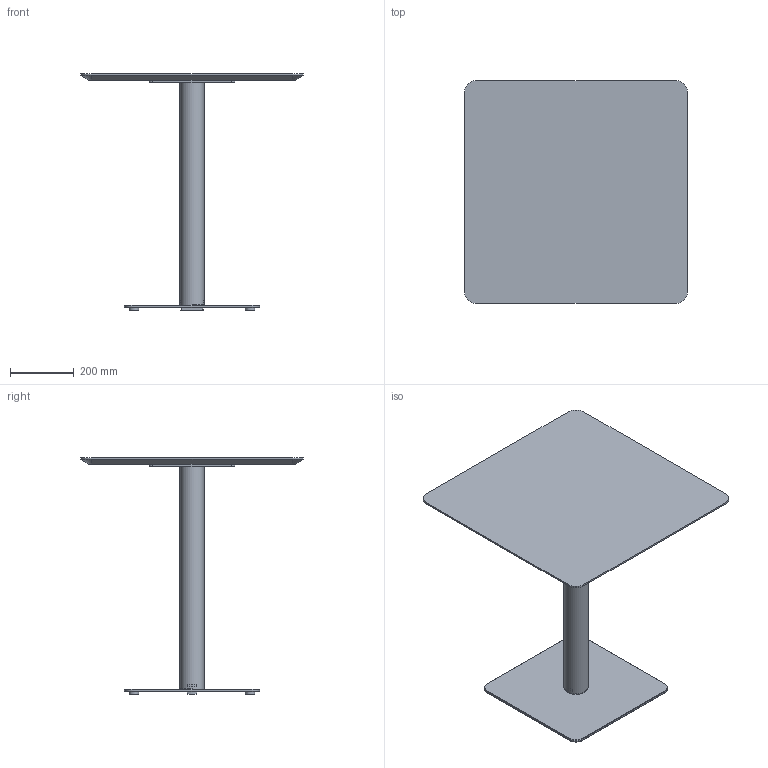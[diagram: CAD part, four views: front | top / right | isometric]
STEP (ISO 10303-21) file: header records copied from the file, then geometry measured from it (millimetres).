
FILE_DESCRIPTION( ('This file contains a STEP AP42 implementation' ,'as created by ZW3D STEP Interface translator.') ,'2;1' );
FILE_NAME( 'Henri - B_Carré - F3 - M5 - 700 x 700 x 750.stp' ,'24 912.171513', (''), ('ZWCAD Software Co.'), 'Version 1.0', 'ZW3D to STEP translator', '' );
FILE_SCHEMA(('AUTOMOTIVE_DESIGN { 1 0 10303 214 1 1 1 1 }'));
Length unit declared in the file: millimetre
Products named in the file (14): 0; PIED BISTROT PARAMETRIQUE_; COLONNE ACIER Ø76 V.02_; TUB-D076-02_; PLA-R76B-01_; CROIX ACIER 370 V.02_; CRX-X370-02_; SOCLE ACIER L 425x425 V.02_; SCL-R425-02_; PLA-R30A-01_; PLA-R30A-01; WUERTH 0276063020 Euro-screw 6.3x2 Verzinkt_; PLATEAU BISTROT PARAMETRIQUE_; insert_m6_13_
Assembly tree (22 placements, depth 3):
  0
  PIED BISTROT PARAMETRIQUE_
    COLONNE ACIER Ø76 V.02_
      TUB-D076-02_
      PLA-R76B-01_  x2
    CROIX ACIER 370 V.02_
      CRX-X370-02_
    SOCLE ACIER L 425x425 V.02_
      SCL-R425-02_
      PLA-R30A-01_
      PLA-R30A-01  x3
    WUERTH 0276063020 Euro-screw 6.3x2 Verzinkt_
    PLATEAU BISTROT PARAMETRIQUE_
      insert_m6_13_  x8
Bounding box: 700 x 700 x 744 mm (x, y, z)
Volume: 11633485.8 mm3; surface area: 1895565 mm2
Topology: 19 solids, 19 shells, 529 faces, 1294 edges, 814 vertices
Faces by surface type: plane 258, bspline 121, cylinder 98, cone 51, torus 1
Full cylindrical faces by diameter (mm): 4.88 x1, 6 x8, 6.3 x1, 8 x45, 12 x2, 14 x2, 30 x4, 72 x1, 76 x1
Entity records: 12106 total; most frequent: CARTESIAN_POINT 3364, ORIENTED_EDGE 1592, DIRECTION 1483, EDGE_CURVE 796, VERTEX_POINT 510, VECTOR 501, LINE 501, AXIS2_PLACEMENT_3D 491
